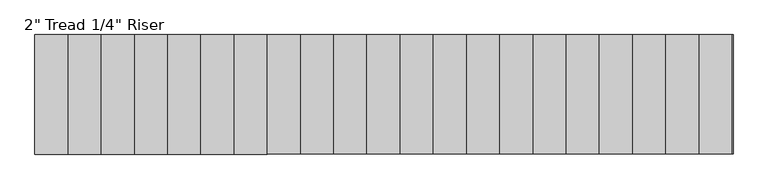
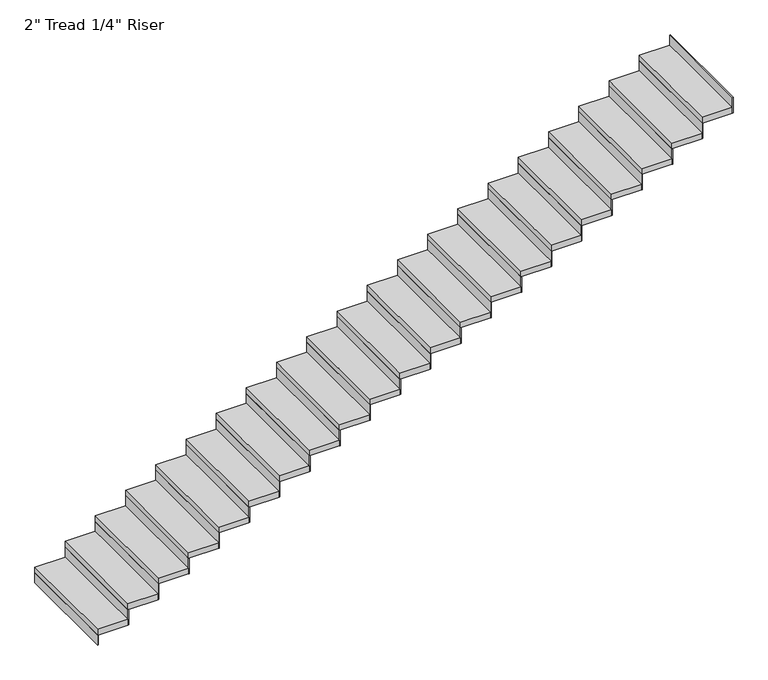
"""IFC4 building model written with IfcOpenShell, lengths in millimetres: stair flight geometry."""

from ifc_helpers import new_model, si_unit, frame, origin, origin_with_axes, place, context, project, spatial, polyline, outline, extrude, source, transform, mapped, element, save


def stair_flight_5fa4b5d9(model_context):
    return source(origin(), model_context, "Body", "SweptSolid", [
        extrude(outline(polyline([(60465.3810647, -18868.6990002), (60459.0310647, -18868.6990002), (60459.0310647, -17954.2990002), (60465.3810647, -17954.2990002), (60465.3810647, -18868.6990002)])), origin_with_axes(), (0.0, 0.0, 1.0), 87.7454545),
        extrude(outline(polyline([(60713.0310647, -17954.2990002), (60713.0310647, -18868.6990002), (60459.0310647, -18868.6990002), (60459.0310647, -17954.2990002), (60713.0310647, -17954.2990002)])), frame((0.0, 0.0, 87.7454545), z_axis=(0.0, 0.0, 1.0), x_axis=(1.0, 0.0, 0.0)), (0.0, 0.0, 1.0), 50.8),
        extrude(outline(polyline([(60719.3810647, -18868.6990002), (60713.0310647, -18868.6990002), (60713.0310647, -17954.2990002), (60719.3810647, -17954.2990002), (60719.3810647, -18868.6990002)])), frame((0.0, 0.0, 87.7454545), z_axis=(0.0, 0.0, 1.0), x_axis=(1.0, 0.0, 0.0)), (0.0, 0.0, 1.0), 138.5454545),
        extrude(outline(polyline([(60967.0310647, -17954.2990002), (60967.0310647, -18868.6990002), (60713.0310647, -18868.6990002), (60713.0310647, -17954.2990002), (60967.0310647, -17954.2990002)])), frame((0.0, 0.0, 226.2909091), z_axis=(0.0, 0.0, 1.0), x_axis=(1.0, 0.0, 0.0)), (0.0, 0.0, 1.0), 50.8),
        extrude(outline(polyline([(60973.3810647, -18868.6990002), (60967.0310647, -18868.6990002), (60967.0310647, -17954.2990002), (60973.3810647, -17954.2990002), (60973.3810647, -18868.6990002)])), frame((0.0, 0.0, 226.2909091), z_axis=(0.0, 0.0, 1.0), x_axis=(1.0, 0.0, 0.0)), (0.0, 0.0, 1.0), 138.5454545),
        extrude(outline(polyline([(61221.0310647, -17954.2990002), (61221.0310647, -18868.6990002), (60967.0310647, -18868.6990002), (60967.0310647, -17954.2990002), (61221.0310647, -17954.2990002)])), frame((0.0, 0.0, 364.8363636), z_axis=(0.0, 0.0, 1.0), x_axis=(1.0, 0.0, 0.0)), (0.0, 0.0, 1.0), 50.8),
        extrude(outline(polyline([(61227.3810647, -18868.6990002), (61221.0310647, -18868.6990002), (61221.0310647, -17954.2990002), (61227.3810647, -17954.2990002), (61227.3810647, -18868.6990002)])), frame((0.0, 0.0, 364.8363636), z_axis=(0.0, 0.0, 1.0), x_axis=(1.0, 0.0, 0.0)), (0.0, 0.0, 1.0), 138.5454545),
        extrude(outline(polyline([(61475.0310647, -17954.2990002), (61475.0310647, -18868.6990002), (61221.0310647, -18868.6990002), (61221.0310647, -17954.2990002), (61475.0310647, -17954.2990002)])), frame((0.0, 0.0, 503.3818182), z_axis=(0.0, 0.0, 1.0), x_axis=(1.0, 0.0, 0.0)), (0.0, 0.0, 1.0), 50.8),
        extrude(outline(polyline([(61481.3810647, -18868.6990002), (61475.0310647, -18868.6990002), (61475.0310647, -17954.2990002), (61481.3810647, -17954.2990002), (61481.3810647, -18868.6990002)])), frame((0.0, 0.0, 503.3818182), z_axis=(0.0, 0.0, 1.0), x_axis=(1.0, 0.0, 0.0)), (0.0, 0.0, 1.0), 138.5454545),
        extrude(outline(polyline([(61729.0310647, -17954.2990002), (61729.0310647, -18868.6990002), (61475.0310647, -18868.6990002), (61475.0310647, -17954.2990002), (61729.0310647, -17954.2990002)])), frame((0.0, 0.0, 641.9272727), z_axis=(0.0, 0.0, 1.0), x_axis=(1.0, 0.0, 0.0)), (0.0, 0.0, 1.0), 50.8),
        extrude(outline(polyline([(61735.3810647, -18868.6990002), (61729.0310647, -18868.6990002), (61729.0310647, -17954.2990002), (61735.3810647, -17954.2990002), (61735.3810647, -18868.6990002)])), frame((0.0, 0.0, 641.9272727), z_axis=(0.0, 0.0, 1.0), x_axis=(1.0, 0.0, 0.0)), (0.0, 0.0, 1.0), 138.5454545),
        extrude(outline(polyline([(61983.0310647, -17954.2990002), (61983.0310647, -18868.6990002), (61729.0310647, -18868.6990002), (61729.0310647, -17954.2990002), (61983.0310647, -17954.2990002)])), frame((0.0, 0.0, 780.4727273), z_axis=(0.0, 0.0, 1.0), x_axis=(1.0, 0.0, 0.0)), (0.0, 0.0, 1.0), 50.8),
        extrude(outline(polyline([(61989.3810647, -18868.6990002), (61983.0310647, -18868.6990002), (61983.0310647, -17954.2990002), (61989.3810647, -17954.2990002), (61989.3810647, -18868.6990002)])), frame((0.0, 0.0, 780.4727273), z_axis=(0.0, 0.0, 1.0), x_axis=(1.0, 0.0, 0.0)), (0.0, 0.0, 1.0), 138.5454545),
        extrude(outline(polyline([(62237.0310647, -17954.2990002), (62237.0310647, -18868.6990002), (61983.0310647, -18868.6990002), (61983.0310647, -17954.2990002), (62237.0310647, -17954.2990002)])), frame((0.0, 0.0, 919.0181818), z_axis=(0.0, 0.0, 1.0), x_axis=(1.0, 0.0, 0.0)), (0.0, 0.0, 1.0), 50.8),
        extrude(outline(polyline([(62243.3810647, -18868.6990002), (62237.0310647, -18868.6990002), (62237.0310647, -17954.2990002), (62243.3810647, -17954.2990002), (62243.3810647, -18868.6990002)])), frame((0.0, 0.0, 919.0181818), z_axis=(0.0, 0.0, 1.0), x_axis=(1.0, 0.0, 0.0)), (0.0, 0.0, 1.0), 138.5454545),
        extrude(outline(polyline([(62491.0310647, -17954.2990002), (62491.0310647, -18868.6990002), (62237.0310647, -18868.6990002), (62237.0310647, -17954.2990002), (62491.0310647, -17954.2990002)])), frame((0.0, 0.0, 1057.5636364), z_axis=(0.0, 0.0, 1.0), x_axis=(1.0, 0.0, 0.0)), (0.0, 0.0, 1.0), 50.8),
        extrude(outline(polyline([(62497.3810647, -18868.6990002), (62491.0310647, -18868.6990002), (62491.0310647, -17954.2990002), (62497.3810647, -17954.2990002), (62497.3810647, -18868.6990002)])), frame((0.0, 0.0, 1057.5636364), z_axis=(0.0, 0.0, 1.0), x_axis=(1.0, 0.0, 0.0)), (0.0, 0.0, 1.0), 138.5454545),
        extrude(outline(polyline([(62745.0310647, -17954.2990002), (62745.0310647, -18868.6990002), (62491.0310647, -18868.6990002), (62491.0310647, -17954.2990002), (62745.0310647, -17954.2990002)])), frame((0.0, 0.0, 1196.1090909), z_axis=(0.0, 0.0, 1.0), x_axis=(1.0, 0.0, 0.0)), (0.0, 0.0, 1.0), 50.8),
        extrude(outline(polyline([(62751.3810647, -18868.6990002), (62745.0310647, -18868.6990002), (62745.0310647, -17954.2990002), (62751.3810647, -17954.2990002), (62751.3810647, -18868.6990002)])), frame((0.0, 0.0, 1196.1090909), z_axis=(0.0, 0.0, 1.0), x_axis=(1.0, 0.0, 0.0)), (0.0, 0.0, 1.0), 138.5454545),
        extrude(outline(polyline([(62999.0310647, -17954.2990002), (62999.0310647, -18868.6990002), (62745.0310647, -18868.6990002), (62745.0310647, -17954.2990002), (62999.0310647, -17954.2990002)])), frame((0.0, 0.0, 1334.6545455), z_axis=(0.0, 0.0, 1.0), x_axis=(1.0, 0.0, 0.0)), (0.0, 0.0, 1.0), 50.8),
        extrude(outline(polyline([(63005.3810647, -18868.6990002), (62999.0310647, -18868.6990002), (62999.0310647, -17954.2990002), (63005.3810647, -17954.2990002), (63005.3810647, -18868.6990002)])), frame((0.0, 0.0, 1334.6545455), z_axis=(0.0, 0.0, 1.0), x_axis=(1.0, 0.0, 0.0)), (0.0, 0.0, 1.0), 138.5454545),
        extrude(outline(polyline([(63253.0310647, -17954.2990002), (63253.0310647, -18868.6990002), (62999.0310647, -18868.6990002), (62999.0310647, -17954.2990002), (63253.0310647, -17954.2990002)])), frame((0.0, 0.0, 1473.2), z_axis=(0.0, 0.0, 1.0), x_axis=(1.0, 0.0, 0.0)), (0.0, 0.0, 1.0), 50.8),
        extrude(outline(polyline([(63259.3810647, -18868.6990002), (63253.0310647, -18868.6990002), (63253.0310647, -17954.2990002), (63259.3810647, -17954.2990002), (63259.3810647, -18868.6990002)])), frame((0.0, 0.0, 1473.2), z_axis=(0.0, 0.0, 1.0), x_axis=(1.0, 0.0, 0.0)), (0.0, 0.0, 1.0), 138.5454545),
        extrude(outline(polyline([(63507.0310647, -17954.2990002), (63507.0310647, -18868.6990002), (63253.0310647, -18868.6990002), (63253.0310647, -17954.2990002), (63507.0310647, -17954.2990002)])), frame((0.0, 0.0, 1611.7454545), z_axis=(0.0, 0.0, 1.0), x_axis=(1.0, 0.0, 0.0)), (0.0, 0.0, 1.0), 50.8),
        extrude(outline(polyline([(63513.3810647, -18868.6990002), (63507.0310647, -18868.6990002), (63507.0310647, -17954.2990002), (63513.3810647, -17954.2990002), (63513.3810647, -18868.6990002)])), frame((0.0, 0.0, 1611.7454545), z_axis=(0.0, 0.0, 1.0), x_axis=(1.0, 0.0, 0.0)), (0.0, 0.0, 1.0), 138.5454545),
        extrude(outline(polyline([(63761.0310647, -17954.2990002), (63761.0310647, -18868.6990002), (63507.0310647, -18868.6990002), (63507.0310647, -17954.2990002), (63761.0310647, -17954.2990002)])), frame((0.0, 0.0, 1750.2909091), z_axis=(0.0, 0.0, 1.0), x_axis=(1.0, 0.0, 0.0)), (0.0, 0.0, 1.0), 50.8),
        extrude(outline(polyline([(63767.3810647, -18868.6990002), (63761.0310647, -18868.6990002), (63761.0310647, -17954.2990002), (63767.3810647, -17954.2990002), (63767.3810647, -18868.6990002)])), frame((0.0, 0.0, 1750.2909091), z_axis=(0.0, 0.0, 1.0), x_axis=(1.0, 0.0, 0.0)), (0.0, 0.0, 1.0), 138.5454545),
        extrude(outline(polyline([(64015.0310647, -17954.2990002), (64015.0310647, -18868.6990002), (63761.0310647, -18868.6990002), (63761.0310647, -17954.2990002), (64015.0310647, -17954.2990002)])), frame((0.0, 0.0, 1888.8363636), z_axis=(0.0, 0.0, 1.0), x_axis=(1.0, 0.0, 0.0)), (0.0, 0.0, 1.0), 50.8),
        extrude(outline(polyline([(64021.3810647, -18868.6990002), (64015.0310647, -18868.6990002), (64015.0310647, -17954.2990002), (64021.3810647, -17954.2990002), (64021.3810647, -18868.6990002)])), frame((0.0, 0.0, 1888.8363636), z_axis=(0.0, 0.0, 1.0), x_axis=(1.0, 0.0, 0.0)), (0.0, 0.0, 1.0), 138.5454545),
        extrude(outline(polyline([(64269.0310647, -17954.2990002), (64269.0310647, -18868.6990002), (64015.0310647, -18868.6990002), (64015.0310647, -17954.2990002), (64269.0310647, -17954.2990002)])), frame((0.0, 0.0, 2027.3818182), z_axis=(0.0, 0.0, 1.0), x_axis=(1.0, 0.0, 0.0)), (0.0, 0.0, 1.0), 50.8),
        extrude(outline(polyline([(64275.3810647, -18868.6990002), (64269.0310647, -18868.6990002), (64269.0310647, -17954.2990002), (64275.3810647, -17954.2990002), (64275.3810647, -18868.6990002)])), frame((0.0, 0.0, 2027.3818182), z_axis=(0.0, 0.0, 1.0), x_axis=(1.0, 0.0, 0.0)), (0.0, 0.0, 1.0), 138.5454545),
        extrude(outline(polyline([(64523.0310647, -17954.2990002), (64523.0310647, -18868.6990002), (64269.0310647, -18868.6990002), (64269.0310647, -17954.2990002), (64523.0310647, -17954.2990002)])), frame((0.0, 0.0, 2165.9272727), z_axis=(0.0, 0.0, 1.0), x_axis=(1.0, 0.0, 0.0)), (0.0, 0.0, 1.0), 50.8),
        extrude(outline(polyline([(64529.3810647, -18868.6990002), (64523.0310647, -18868.6990002), (64523.0310647, -17954.2990002), (64529.3810647, -17954.2990002), (64529.3810647, -18868.6990002)])), frame((0.0, 0.0, 2165.9272727), z_axis=(0.0, 0.0, 1.0), x_axis=(1.0, 0.0, 0.0)), (0.0, 0.0, 1.0), 138.5454545),
        extrude(outline(polyline([(64777.0310647, -17954.2990002), (64777.0310647, -18868.6990002), (64523.0310647, -18868.6990002), (64523.0310647, -17954.2990002), (64777.0310647, -17954.2990002)])), frame((0.0, 0.0, 2304.4727273), z_axis=(0.0, 0.0, 1.0), x_axis=(1.0, 0.0, 0.0)), (0.0, 0.0, 1.0), 50.8),
        extrude(outline(polyline([(64783.3810647, -18868.6990002), (64777.0310647, -18868.6990002), (64777.0310647, -17954.2990002), (64783.3810647, -17954.2990002), (64783.3810647, -18868.6990002)])), frame((0.0, 0.0, 2304.4727273), z_axis=(0.0, 0.0, 1.0), x_axis=(1.0, 0.0, 0.0)), (0.0, 0.0, 1.0), 138.5454545),
        extrude(outline(polyline([(65031.0310647, -17954.2990002), (65031.0310647, -18868.6990002), (64777.0310647, -18868.6990002), (64777.0310647, -17954.2990002), (65031.0310647, -17954.2990002)])), frame((0.0, 0.0, 2443.0181818), z_axis=(0.0, 0.0, 1.0), x_axis=(1.0, 0.0, 0.0)), (0.0, 0.0, 1.0), 50.8),
        extrude(outline(polyline([(65037.3810647, -18868.6990002), (65031.0310647, -18868.6990002), (65031.0310647, -17954.2990002), (65037.3810647, -17954.2990002), (65037.3810647, -18868.6990002)])), frame((0.0, 0.0, 2443.0181818), z_axis=(0.0, 0.0, 1.0), x_axis=(1.0, 0.0, 0.0)), (0.0, 0.0, 1.0), 138.5454545),
        extrude(outline(polyline([(65285.0310647, -17954.2990002), (65285.0310647, -18868.6990002), (65031.0310647, -18868.6990002), (65031.0310647, -17954.2990002), (65285.0310647, -17954.2990002)])), frame((0.0, 0.0, 2581.5636364), z_axis=(0.0, 0.0, 1.0), x_axis=(1.0, 0.0, 0.0)), (0.0, 0.0, 1.0), 50.8),
        extrude(outline(polyline([(65291.3810647, -18868.6990002), (65285.0310647, -18868.6990002), (65285.0310647, -17954.2990002), (65291.3810647, -17954.2990002), (65291.3810647, -18868.6990002)])), frame((0.0, 0.0, 2581.5636364), z_axis=(0.0, 0.0, 1.0), x_axis=(1.0, 0.0, 0.0)), (0.0, 0.0, 1.0), 138.5454545),
        extrude(outline(polyline([(65539.0310647, -17954.2990002), (65539.0310647, -18868.6990002), (65285.0310647, -18868.6990002), (65285.0310647, -17954.2990002), (65539.0310647, -17954.2990002)])), frame((0.0, 0.0, 2720.1090909), z_axis=(0.0, 0.0, 1.0), x_axis=(1.0, 0.0, 0.0)), (0.0, 0.0, 1.0), 50.8),
        extrude(outline(polyline([(65545.3810647, -18868.6990002), (65539.0310647, -18868.6990002), (65539.0310647, -17954.2990002), (65545.3810647, -17954.2990002), (65545.3810647, -18868.6990002)])), frame((0.0, 0.0, 2720.1090909), z_axis=(0.0, 0.0, 1.0), x_axis=(1.0, 0.0, 0.0)), (0.0, 0.0, 1.0), 138.5454545),
        extrude(outline(polyline([(65799.3810647, -18868.6990002), (65793.0310647, -18868.6990002), (65793.0310647, -17954.2990002), (65799.3810647, -17954.2990002), (65799.3810647, -18868.6990002)])), frame((0.0, 0.0, 2858.6545455), z_axis=(0.0, 0.0, 1.0), x_axis=(1.0, 0.0, 0.0)), (0.0, 0.0, 1.0), 138.5454545),
        extrude(outline(polyline([(65793.0310647, -17954.2990002), (65793.0310647, -18868.6990002), (65539.0310647, -18868.6990002), (65539.0310647, -17954.2990002), (65793.0310647, -17954.2990002)])), frame((0.0, 0.0, 2858.6545455), z_axis=(0.0, 0.0, 1.0), x_axis=(1.0, 0.0, 0.0)), (0.0, 0.0, 1.0), 50.8),
    ])


if __name__ == "__main__":
    model = new_model("IFC4")
    model_context = context("Model", 3, world=origin())
    ifc_project = project(units=[si_unit("LENGTHUNIT", "METRE", prefix="MILLI")], contexts=[model_context])
    site = spatial("IfcSite", under=ifc_project)
    building = spatial("IfcBuilding", under=site)
    placement = place(None, origin())
    stair_flight_shape = stair_flight_5fa4b5d9(model_context)
    element("IfcStairFlight", 1, ObjectType="2\" Tread 1/4\" Riser", at=placement, inside=building, context=model_context, shape_type="MappedRepresentation", body=[
        mapped(stair_flight_shape, transform((0.0, 0.0, 0.0), x_axis=(1.0, 0.0, 0.0), y_axis=(0.0, 1.0, 0.0), z_axis=(0.0, 0.0, 1.0))),
    ])
    save(model, "model.ifc")
